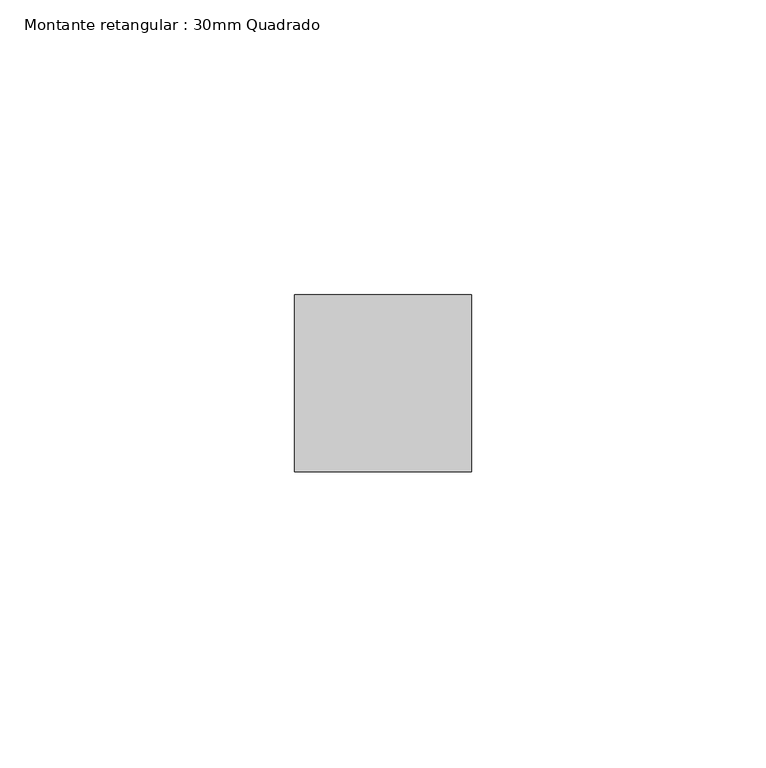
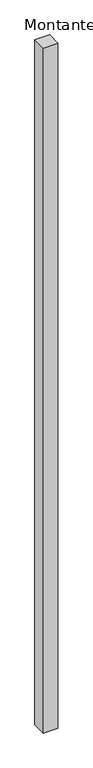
"""IFC4 building model written with IfcOpenShell, lengths in millimetres: member geometry, Montante retangular : 30mm Quadrado."""

from ifc_helpers import new_model, si_unit, frame, origin, place, context, project, spatial, polyline, outline, extrude, source, transform, mapped, element, save


def montante_retangular_30mm_quadrado_27f32221(model_context):
    return source(origin(), model_context, "Body", "SweptSolid", [
        extrude(outline(polyline([(0.0, 15.0), (0.0, -15.0), (-30.0, -15.0), (-30.0, 15.0), (0.0, 15.0)])), frame((0.0, 0.0, -1485.0000003), z_axis=(0.0, 0.0, 1.0), x_axis=(1.0, 0.0, 0.0)), (0.0, 0.0, 1.0), 1485.0000003),
    ])


if __name__ == "__main__":
    model = new_model("IFC4")
    model_context = context("Model", 3, world=origin())
    ifc_project = project(units=[si_unit("LENGTHUNIT", "METRE", prefix="MILLI")], contexts=[model_context])
    site = spatial("IfcSite", under=ifc_project)
    building = spatial("IfcBuilding", under=site)
    placement = place(None, origin())
    montante_retangular_30mm_quadrado_shape = montante_retangular_30mm_quadrado_27f32221(model_context)
    element("IfcMember", 1, ObjectType="Montante retangular : 30mm Quadrado", at=placement, inside=building, context=model_context, shape_type="MappedRepresentation", body=[
        mapped(montante_retangular_30mm_quadrado_shape, transform((0.0, 0.0, 0.0), x_axis=(1.0, 0.0, 0.0), y_axis=(0.0, 1.0, 0.0), z_axis=(0.0, 0.0, 1.0))),
    ])
    save(model, "model.ifc")
